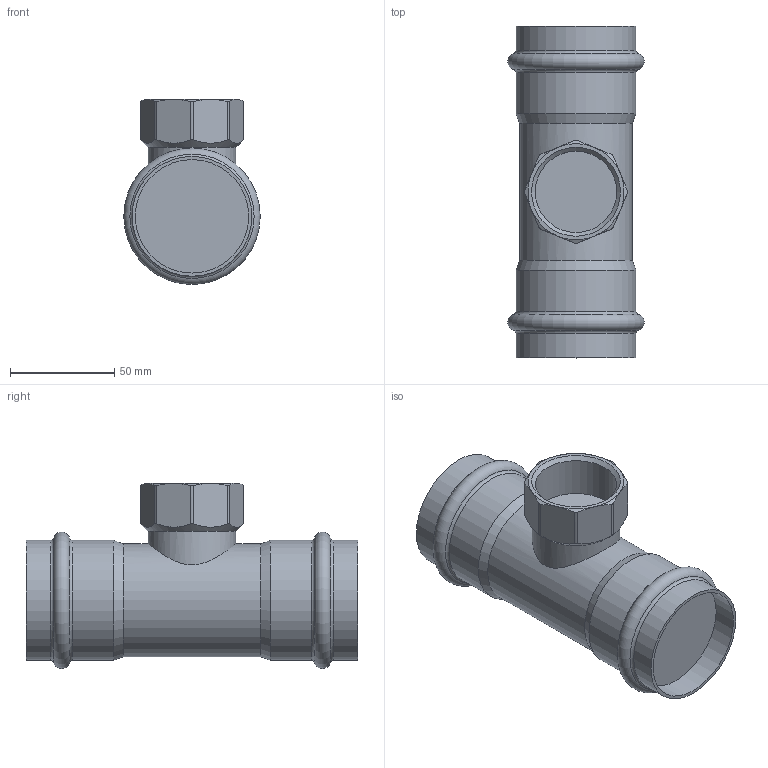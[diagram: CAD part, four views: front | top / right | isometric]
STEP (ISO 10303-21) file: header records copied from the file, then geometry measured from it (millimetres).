
FILE_DESCRIPTION(('STEP AP203'), '1');
FILE_NAME('VTi.932.I.540754', '', ('UNSPECIFIED'), ('UNSPECIFIED'), 'C3D Converter', 'C3D Toolkit', '');
FILE_SCHEMA(('CONFIG_CONTROL_DESIGN'));
Length unit declared in the file: millimetre
Bounding box: 65.38 x 159 x 88.69 mm (x, y, z)
Volume: 371782.9 mm3; surface area: 46585.4 mm2
Topology: 1 solids, 1 shells, 49 faces, 111 edges, 67 vertices
Faces by surface type: cylinder 17, plane 14, cone 12, torus 6
Full cylindrical faces by diameter (mm): 39 x1, 42 x1, 54 x1, 54.4 x2, 57.4 x4
Entity records: 2657 total; most frequent: CARTESIAN_POINT 1665, ORIENTED_EDGE 182, DIRECTION 178, EDGE_CURVE 91, AXIS2_PLACEMENT_3D 81, EDGE_LOOP 72, VERTEX_POINT 67, ADVANCED_FACE 49
